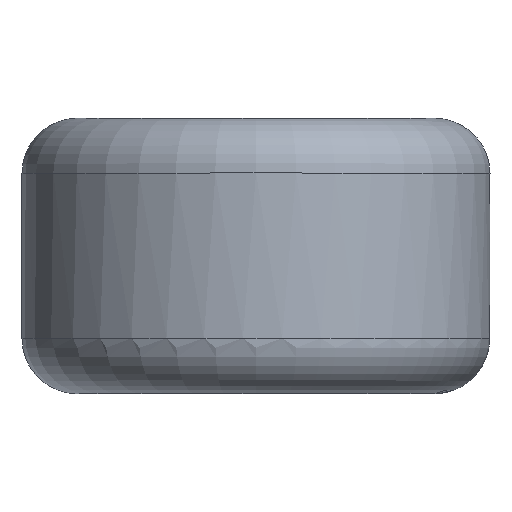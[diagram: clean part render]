
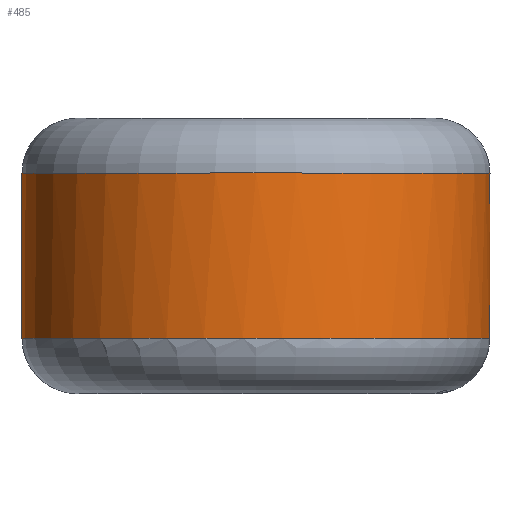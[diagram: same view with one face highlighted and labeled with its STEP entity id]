
A CAD part, top view. The second image highlights one B-rep face of the part: STEP entity #485.
In plain terms, the highlighted cylindrical face has radius 4.25 mm (diameter 8.5 mm), a full revolution.
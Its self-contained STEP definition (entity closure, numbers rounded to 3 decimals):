
#48=LINE('',#2619,#53);
#53=VECTOR('',#676,4.25);
#62=CYLINDRICAL_SURFACE('',#559,4.25);
#86=FACE_OUTER_BOUND('',#117,.T.);
#117=EDGE_LOOP('',(#412,#413,#414,#415,#416,#417,#418,#419,#420,#421,#422,
#423));
#145=CIRCLE('',#543,4.25);
#146=CIRCLE('',#544,4.25);
#147=CIRCLE('',#545,4.25);
#153=CIRCLE('',#552,4.25);
#154=CIRCLE('',#553,4.25);
#155=CIRCLE('',#554,4.25);
#177=B_SPLINE_CURVE_WITH_KNOTS('',3,(#953,#954,#955,#956,#957,#958,#959,
#960,#961,#962,#963,#964,#965,#966,#967,#968,#969,#970,#971),
 .UNSPECIFIED.,.F.,.F.,(4,3,3,3,3,3,4),(-0.128,-0.103,
-0.095,-0.079,-0.063,-0.03,
-0.017),.UNSPECIFIED.);
#178=B_SPLINE_CURVE_WITH_KNOTS('',3,(#972,#973,#974,#975,#976,#977,#978,
#979,#980),.UNSPECIFIED.,.F.,.F.,(4,1,1,1,1,1,4),(-0.299,-0.28,
-0.263,-0.255,-0.247,-0.214,
-0.181),.UNSPECIFIED.);
#186=B_SPLINE_CURVE_WITH_KNOTS('',3,(#1796,#1797,#1798,#1799,#1800,#1801,
#1802,#1803,#1804,#1805,#1806,#1807,#1808,#1809,#1810,#1811,#1812,#1813,
#1814,#1815,#1816,#1817),.UNSPECIFIED.,.F.,.F.,(4,3,3,3,3,3,3,4),(-0.141,
-0.109,-0.076,-0.072,-0.068,
-0.06,-0.043,-0.03),
 .UNSPECIFIED.);
#187=B_SPLINE_CURVE_WITH_KNOTS('',3,(#1818,#1819,#1820,#1821,#1822,#1823,
#1824,#1825,#1826),.UNSPECIFIED.,.F.,.F.,(4,1,1,1,1,1,4),(-0.313,
-0.301,-0.293,-0.26,-0.228,
-0.219,-0.195),.UNSPECIFIED.);
#207=VERTEX_POINT('',#882);
#212=VERTEX_POINT('',#950);
#213=VERTEX_POINT('',#952);
#217=VERTEX_POINT('',#1640);
#218=VERTEX_POINT('',#1643);
#219=VERTEX_POINT('',#1722);
#224=VERTEX_POINT('',#1793);
#225=VERTEX_POINT('',#1795);
#229=VERTEX_POINT('',#2486);
#230=VERTEX_POINT('',#2489);
#266=EDGE_CURVE('',#212,#213,#177,.T.);
#267=EDGE_CURVE('',#213,#207,#178,.T.);
#274=EDGE_CURVE('',#217,#212,#145,.T.);
#275=EDGE_CURVE('',#207,#218,#146,.T.);
#276=EDGE_CURVE('',#218,#217,#147,.T.);
#283=EDGE_CURVE('',#224,#225,#186,.T.);
#284=EDGE_CURVE('',#225,#219,#187,.T.);
#291=EDGE_CURVE('',#229,#224,#153,.T.);
#292=EDGE_CURVE('',#219,#230,#154,.T.);
#293=EDGE_CURVE('',#230,#229,#155,.T.);
#298=EDGE_CURVE('',#230,#218,#48,.T.);
#412=ORIENTED_EDGE('',*,*,#283,.F.);
#413=ORIENTED_EDGE('',*,*,#291,.F.);
#414=ORIENTED_EDGE('',*,*,#293,.F.);
#415=ORIENTED_EDGE('',*,*,#298,.T.);
#416=ORIENTED_EDGE('',*,*,#275,.F.);
#417=ORIENTED_EDGE('',*,*,#267,.F.);
#418=ORIENTED_EDGE('',*,*,#266,.F.);
#419=ORIENTED_EDGE('',*,*,#274,.F.);
#420=ORIENTED_EDGE('',*,*,#276,.F.);
#421=ORIENTED_EDGE('',*,*,#298,.F.);
#422=ORIENTED_EDGE('',*,*,#292,.F.);
#423=ORIENTED_EDGE('',*,*,#284,.F.);
#485=ADVANCED_FACE('',(#86),#62,.T.);
#543=AXIS2_PLACEMENT_3D('',#1642,#642,#643);
#544=AXIS2_PLACEMENT_3D('',#1644,#644,#645);
#545=AXIS2_PLACEMENT_3D('',#1645,#646,#647);
#552=AXIS2_PLACEMENT_3D('',#2488,#660,#661);
#553=AXIS2_PLACEMENT_3D('',#2490,#662,#663);
#554=AXIS2_PLACEMENT_3D('',#2491,#664,#665);
#559=AXIS2_PLACEMENT_3D('',#2618,#674,#675);
#642=DIRECTION('center_axis',(0.,1.,0.));
#643=DIRECTION('ref_axis',(-1.,0.,0.));
#644=DIRECTION('center_axis',(0.,1.,0.));
#645=DIRECTION('ref_axis',(-1.,0.,0.));
#646=DIRECTION('center_axis',(0.,1.,0.));
#647=DIRECTION('ref_axis',(-1.,0.,0.));
#660=DIRECTION('center_axis',(0.,-1.,0.));
#661=DIRECTION('ref_axis',(-1.,0.,0.));
#662=DIRECTION('center_axis',(0.,-1.,0.));
#663=DIRECTION('ref_axis',(-1.,0.,0.));
#664=DIRECTION('center_axis',(0.,-1.,0.));
#665=DIRECTION('ref_axis',(-1.,0.,0.));
#674=DIRECTION('center_axis',(0.,-1.,0.));
#675=DIRECTION('ref_axis',(1.,0.,0.));
#676=DIRECTION('',(0.,1.,0.));
#882=CARTESIAN_POINT('',(-3.17,1.5,-2.831));
#950=CARTESIAN_POINT('',(-2.534,1.5,-3.412));
#952=CARTESIAN_POINT('',(-2.824,-0.043,-3.176));
#953=CARTESIAN_POINT('Ctrl Pts',(-2.534,1.5,-3.412));
#954=CARTESIAN_POINT('Ctrl Pts',(-2.441,1.414,-3.481));
#955=CARTESIAN_POINT('Ctrl Pts',(-2.362,1.293,-3.534));
#956=CARTESIAN_POINT('Ctrl Pts',(-2.312,1.154,-3.566));
#957=CARTESIAN_POINT('Ctrl Pts',(-2.295,1.108,-3.577));
#958=CARTESIAN_POINT('Ctrl Pts',(-2.282,1.059,-3.585));
#959=CARTESIAN_POINT('Ctrl Pts',(-2.272,1.01,-3.592));
#960=CARTESIAN_POINT('Ctrl Pts',(-2.252,0.91,-3.604));
#961=CARTESIAN_POINT('Ctrl Pts',(-2.246,0.807,-3.608));
#962=CARTESIAN_POINT('Ctrl Pts',(-2.255,0.705,-3.602));
#963=CARTESIAN_POINT('Ctrl Pts',(-2.265,0.603,-3.596));
#964=CARTESIAN_POINT('Ctrl Pts',(-2.288,0.503,-3.582));
#965=CARTESIAN_POINT('Ctrl Pts',(-2.325,0.413,-3.558));
#966=CARTESIAN_POINT('Ctrl Pts',(-2.397,0.231,-3.51));
#967=CARTESIAN_POINT('Ctrl Pts',(-2.521,0.085,-3.427));
#968=CARTESIAN_POINT('Ctrl Pts',(-2.656,0.011,-3.318));
#969=CARTESIAN_POINT('Ctrl Pts',(-2.711,-0.019,-3.274));
#970=CARTESIAN_POINT('Ctrl Pts',(-2.768,-0.037,
-3.226));
#971=CARTESIAN_POINT('Ctrl Pts',(-2.824,-0.043,
-3.176));
#972=CARTESIAN_POINT('Ctrl Pts',(-2.824,-0.043,
-3.176));
#973=CARTESIAN_POINT('Ctrl Pts',(-2.907,-0.052,
-3.101));
#974=CARTESIAN_POINT('Ctrl Pts',(-3.058,-0.021,-2.957));
#975=CARTESIAN_POINT('Ctrl Pts',(-3.204,0.127,-2.793));
#976=CARTESIAN_POINT('Ctrl Pts',(-3.286,0.277,-2.695));
#977=CARTESIAN_POINT('Ctrl Pts',(-3.381,0.537,-2.576));
#978=CARTESIAN_POINT('Ctrl Pts',(-3.412,1.026,-2.535));
#979=CARTESIAN_POINT('Ctrl Pts',(-3.273,1.385,-2.716));
#980=CARTESIAN_POINT('Ctrl Pts',(-3.17,1.5,-2.831));
#1640=CARTESIAN_POINT('',(0.,1.5,4.25));
#1642=CARTESIAN_POINT('Origin',(0.,1.5,0.));
#1643=CARTESIAN_POINT('',(-4.25,1.5,0.));
#1644=CARTESIAN_POINT('Origin',(0.,1.5,0.));
#1645=CARTESIAN_POINT('Origin',(0.,1.5,0.));
#1722=CARTESIAN_POINT('',(3.17,-1.5,-2.831));
#1793=CARTESIAN_POINT('',(2.534,-1.5,-3.412));
#1795=CARTESIAN_POINT('',(2.824,0.043,-3.176));
#1796=CARTESIAN_POINT('Ctrl Pts',(2.534,-1.5,-3.412));
#1797=CARTESIAN_POINT('Ctrl Pts',(2.41,-1.385,-3.504));
#1798=CARTESIAN_POINT('Ctrl Pts',(2.312,-1.207,-3.567));
#1799=CARTESIAN_POINT('Ctrl Pts',(2.272,-1.01,-3.592));
#1800=CARTESIAN_POINT('Ctrl Pts',(2.232,-0.812,-3.617));
#1801=CARTESIAN_POINT('Ctrl Pts',(2.252,-0.594,-3.606));
#1802=CARTESIAN_POINT('Ctrl Pts',(2.324,-0.412,-3.558));
#1803=CARTESIAN_POINT('Ctrl Pts',(2.333,-0.39,-3.552));
#1804=CARTESIAN_POINT('Ctrl Pts',(2.343,-0.368,-3.546));
#1805=CARTESIAN_POINT('Ctrl Pts',(2.354,-0.346,-3.539));
#1806=CARTESIAN_POINT('Ctrl Pts',(2.364,-0.325,-3.532));
#1807=CARTESIAN_POINT('Ctrl Pts',(2.376,-0.304,-3.524));
#1808=CARTESIAN_POINT('Ctrl Pts',(2.387,-0.283,-3.516));
#1809=CARTESIAN_POINT('Ctrl Pts',(2.411,-0.243,-3.5));
#1810=CARTESIAN_POINT('Ctrl Pts',(2.438,-0.206,-3.482));
#1811=CARTESIAN_POINT('Ctrl Pts',(2.466,-0.171,-3.461));
#1812=CARTESIAN_POINT('Ctrl Pts',(2.523,-0.103,-3.421));
#1813=CARTESIAN_POINT('Ctrl Pts',(2.588,-0.048,
-3.373));
#1814=CARTESIAN_POINT('Ctrl Pts',(2.656,-0.011,
-3.318));
#1815=CARTESIAN_POINT('Ctrl Pts',(2.711,0.019,-3.274));
#1816=CARTESIAN_POINT('Ctrl Pts',(2.768,0.037,-3.226));
#1817=CARTESIAN_POINT('Ctrl Pts',(2.824,0.043,-3.176));
#1818=CARTESIAN_POINT('Ctrl Pts',(2.824,0.043,-3.176));
#1819=CARTESIAN_POINT('Ctrl Pts',(2.872,0.049,-3.133));
#1820=CARTESIAN_POINT('Ctrl Pts',(2.955,0.043,-3.056));
#1821=CARTESIAN_POINT('Ctrl Pts',(3.159,-0.045,
-2.851));
#1822=CARTESIAN_POINT('Ctrl Pts',(3.372,-0.374,-2.591));
#1823=CARTESIAN_POINT('Ctrl Pts',(3.401,-0.863,-2.548));
#1824=CARTESIAN_POINT('Ctrl Pts',(3.325,-1.251,-2.648));
#1825=CARTESIAN_POINT('Ctrl Pts',(3.247,-1.413,-2.745));
#1826=CARTESIAN_POINT('Ctrl Pts',(3.17,-1.5,-2.831));
#2486=CARTESIAN_POINT('',(0.,-1.5,-4.25));
#2488=CARTESIAN_POINT('Origin',(0.,-1.5,0.));
#2489=CARTESIAN_POINT('',(-4.25,-1.5,0.));
#2490=CARTESIAN_POINT('Origin',(0.,-1.5,0.));
#2491=CARTESIAN_POINT('Origin',(0.,-1.5,0.));
#2618=CARTESIAN_POINT('Origin',(0.,0.,
0.));
#2619=CARTESIAN_POINT('',(-4.25,0.,0.));
